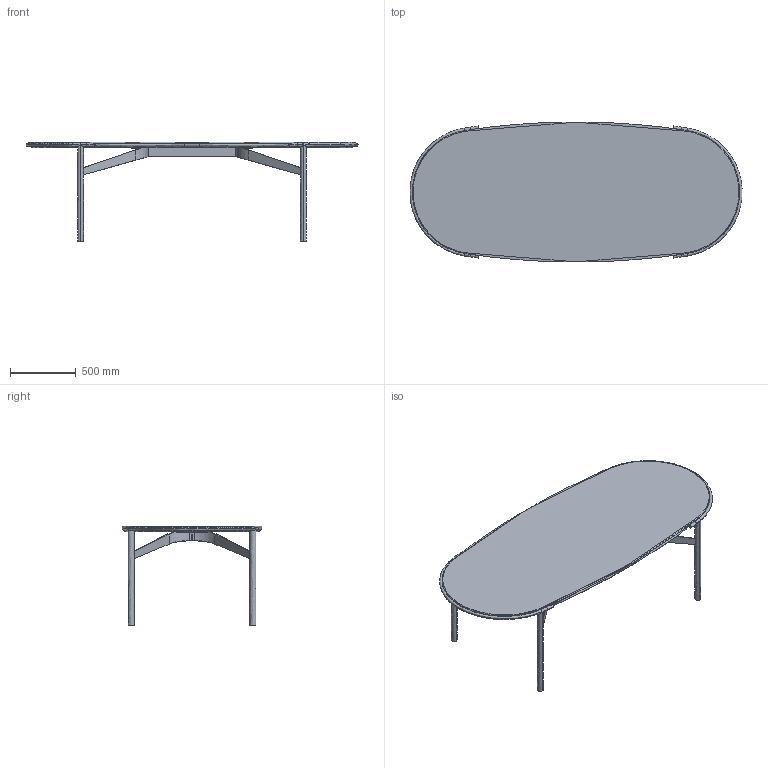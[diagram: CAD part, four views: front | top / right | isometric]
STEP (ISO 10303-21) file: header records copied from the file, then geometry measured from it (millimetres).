
FILE_DESCRIPTION(/* description */ (''),/* implementation_level */ '2;1');
FILE_NAME(/* name */ 'MTJCD3~J',/* time_stamp */ '2024-07-04T11:21:00+02:00',/* author */ (''),/* organization */ (''),/* preprocessor_version */ 'ST-DEVELOPER v15',/* originating_system */ '',/* authorisation */ '');
FILE_SCHEMA (('AUTOMOTIVE_DESIGN'));
Length unit declared in the file: centimetre
Products named in the file (1): Document
Bounding box: 2516.76 x 1059.31 x 754.39 mm (x, y, z)
Volume: 14117782.1 mm3; surface area: 10753298.4 mm2
Topology: 14 solids, 17 shells, 294 faces, 838 edges, 566 vertices
Faces by surface type: bspline 164, plane 130
Entity records: 15684 total; most frequent: CARTESIAN_POINT 10624, ORIENTED_EDGE 1640, EDGE_CURVE 838, VERTEX_POINT 566, B_SPLINE_CURVE_WITH_KNOTS 437, EDGE_LOOP 340, ADVANCED_FACE 294, FACE_OUTER_BOUND 294
